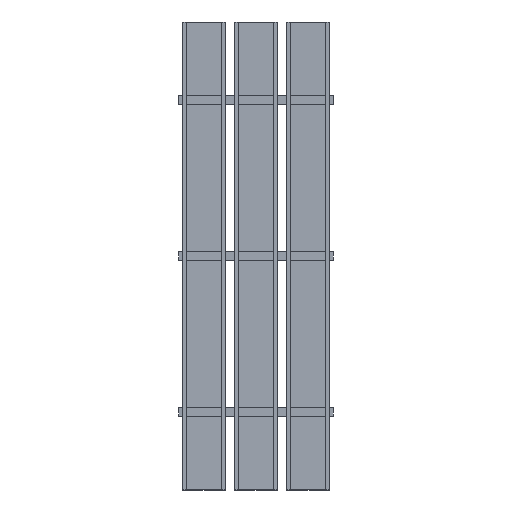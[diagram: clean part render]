
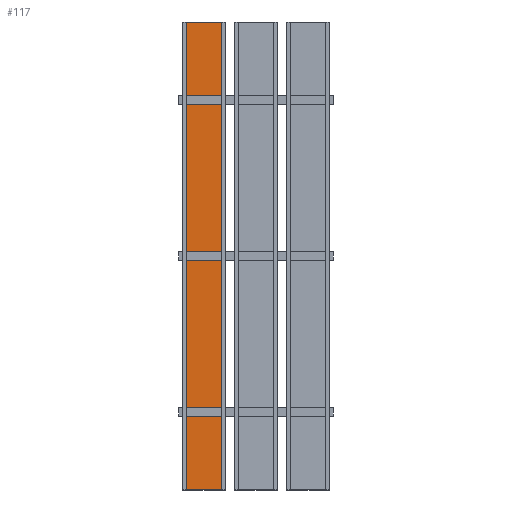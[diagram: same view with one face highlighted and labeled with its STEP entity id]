
A CAD part, top view. The second image highlights one B-rep face of the part: STEP entity #117.
In plain terms, the highlighted planar face has unit normal (0, 0, 1).
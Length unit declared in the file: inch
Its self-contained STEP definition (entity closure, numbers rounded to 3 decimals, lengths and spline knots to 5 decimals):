
#117=ADVANCED_FACE('',(#237),#2025,.T.);
#237=FACE_OUTER_BOUND('',#369,.T.);
#369=EDGE_LOOP('',(#766,#767,#768,#769));
#766=ORIENTED_EDGE('',*,*,#1280,.F.);
#767=ORIENTED_EDGE('',*,*,#1300,.T.);
#768=ORIENTED_EDGE('',*,*,#1286,.F.);
#769=ORIENTED_EDGE('',*,*,#1297,.F.);
#1280=EDGE_CURVE('',#1872,#1873,#1604,.T.);
#1286=EDGE_CURVE('',#1878,#1879,#1610,.T.);
#1297=EDGE_CURVE('',#1873,#1878,#1621,.T.);
#1300=EDGE_CURVE('',#1872,#1879,#1624,.T.);
#1604=B_SPLINE_CURVE_WITH_KNOTS('',1,(#3123,#3124),.UNSPECIFIED.,.F.,.F.,
(2,2),(0.,72.),.UNSPECIFIED.);
#1610=B_SPLINE_CURVE_WITH_KNOTS('',1,(#3135,#3136),.UNSPECIFIED.,.F.,.F.,
(2,2),(0.,72.),.UNSPECIFIED.);
#1621=B_SPLINE_CURVE_WITH_KNOTS('',1,(#3157,#3158),.UNSPECIFIED.,.F.,.F.,
(2,2),(0.,5.5),.UNSPECIFIED.);
#1624=B_SPLINE_CURVE_WITH_KNOTS('',1,(#3163,#3164),.UNSPECIFIED.,.F.,.F.,
(2,2),(0.,5.5),.UNSPECIFIED.);
#1872=VERTEX_POINT('',#2665);
#1873=VERTEX_POINT('',#2666);
#1878=VERTEX_POINT('',#2671);
#1879=VERTEX_POINT('',#2672);
#2025=PLANE('',#2236);
#2236=AXIS2_PLACEMENT_3D('',#2482,#2359,$);
#2359=DIRECTION('',(0.,0.,1.));
#2482=CARTESIAN_POINT('',(-12.69528,43.20472,-1.));
#2665=CARTESIAN_POINT('',(-18.75,-36.,-1.));
#2666=CARTESIAN_POINT('',(-18.75,36.,-1.));
#2671=CARTESIAN_POINT('',(-13.25,36.,-1.));
#2672=CARTESIAN_POINT('',(-13.25,-36.,-1.));
#3123=CARTESIAN_POINT('',(-18.75,-36.,-1.));
#3124=CARTESIAN_POINT('',(-18.75,36.,-1.));
#3135=CARTESIAN_POINT('',(-13.25,36.,-1.));
#3136=CARTESIAN_POINT('',(-13.25,-36.,-1.));
#3157=CARTESIAN_POINT('',(-18.75,36.,-1.));
#3158=CARTESIAN_POINT('',(-13.25,36.,-1.));
#3163=CARTESIAN_POINT('',(-18.75,-36.,-1.));
#3164=CARTESIAN_POINT('',(-13.25,-36.,-1.));
